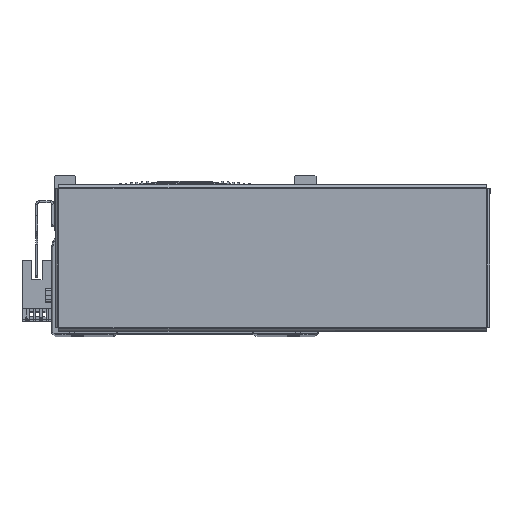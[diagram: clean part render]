
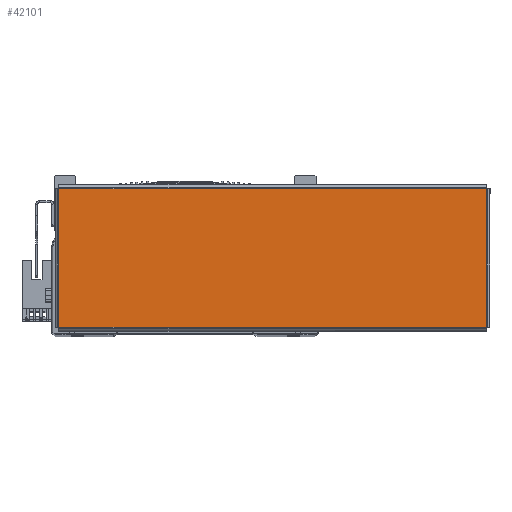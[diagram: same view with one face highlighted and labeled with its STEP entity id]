
A CAD part, top view. The second image highlights one B-rep face of the part: STEP entity #42101.
In plain terms, the highlighted planar face has unit normal (0, 0, 1) as drawn and (0, 0, -1) by its records, which use the part's own axes.
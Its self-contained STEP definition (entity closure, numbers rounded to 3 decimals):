
#6015 = AXIS2_PLACEMENT_3D ( 'NONE', #64818, #64801, #64816 ) ;
#15369 = CARTESIAN_POINT ( 'NONE',  ( 97.863, 31.793, -1. ) ) ;
#15376 = DIRECTION ( 'NONE',  ( 0., -1., 0. ) ) ;
#15539 = CARTESIAN_POINT ( 'NONE',  ( 97.893, -31.763, -1. ) ) ;
#15578 = DIRECTION ( 'NONE',  ( -1., 0., 0. ) ) ;
#15650 = CARTESIAN_POINT ( 'NONE',  ( -97.863, -31.793, -1. ) ) ;
#15735 = DIRECTION ( 'NONE',  ( 1., 0., 0. ) ) ;
#15773 = CARTESIAN_POINT ( 'NONE',  ( -97.893, 31.763, -1. ) ) ;
#15825 = DIRECTION ( 'NONE',  ( 0., 1., 0. ) ) ;
#22552 = VERTEX_POINT ( 'NONE', #60779 ) ;
#22568 = VERTEX_POINT ( 'NONE', #60775 ) ;
#22600 = VERTEX_POINT ( 'NONE', #60691 ) ;
#22642 = VERTEX_POINT ( 'NONE', #60762 ) ;
#24566 = ORIENTED_EDGE ( 'NONE', *, *, #45048, .T. ) ;
#24595 = ORIENTED_EDGE ( 'NONE', *, *, #44950, .T. ) ;
#24616 = ORIENTED_EDGE ( 'NONE', *, *, #45007, .T. ) ;
#24794 = ORIENTED_EDGE ( 'NONE', *, *, #45055, .T. ) ;
#26370 = EDGE_LOOP ( 'NONE', ( #24595, #24616, #24566, #24794 ) ) ;
#42101 = ADVANCED_FACE ( 'NONE', ( #63634 ), #64815, .F. ) ;
#44950 = EDGE_CURVE ( 'NONE', #22568, #22600, #50077, .T. ) ;
#45007 = EDGE_CURVE ( 'NONE', #22600, #22552, #50045, .T. ) ;
#45048 = EDGE_CURVE ( 'NONE', #22552, #22642, #50125, .T. ) ;
#45055 = EDGE_CURVE ( 'NONE', #22642, #22568, #50132, .T. ) ;
#50045 = LINE ( 'NONE', #15539, #50046 ) ;
#50046 = VECTOR ( 'NONE', #15578, 1000. ) ;
#50077 = LINE ( 'NONE', #15369, #50092 ) ;
#50092 = VECTOR ( 'NONE', #15376, 1000. ) ;
#50122 = VECTOR ( 'NONE', #15825, 1000. ) ;
#50125 = LINE ( 'NONE', #15650, #50122 ) ;
#50132 = LINE ( 'NONE', #15773, #50148 ) ;
#50148 = VECTOR ( 'NONE', #15735, 1000. ) ;
#60691 = CARTESIAN_POINT ( 'NONE',  ( 97.863, -31.763, -1. ) ) ;
#60762 = CARTESIAN_POINT ( 'NONE',  ( -97.863, 31.763, -1. ) ) ;
#60775 = CARTESIAN_POINT ( 'NONE',  ( 97.863, 31.763, -1. ) ) ;
#60779 = CARTESIAN_POINT ( 'NONE',  ( -97.863, -31.763, -1. ) ) ;
#63634 = FACE_OUTER_BOUND ( 'NONE', #26370, .T. ) ;
#64801 = DIRECTION ( 'NONE',  ( 0., 0., 1. ) ) ;
#64815 = PLANE ( 'NONE',  #6015 ) ;
#64816 = DIRECTION ( 'NONE',  ( 1., 0., 0. ) ) ;
#64818 = CARTESIAN_POINT ( 'NONE',  ( 0., 0., -1. ) ) ;
